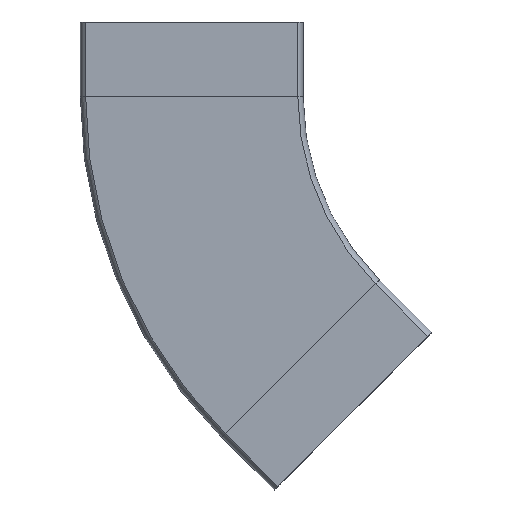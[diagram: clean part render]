
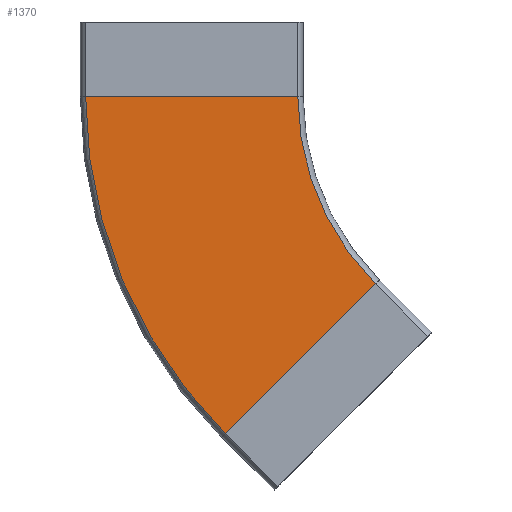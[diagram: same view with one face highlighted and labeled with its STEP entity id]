
A CAD part, front view. The second image highlights one B-rep face of the part: STEP entity #1370.
In plain terms, the highlighted planar face has unit normal (0, -1, 0).
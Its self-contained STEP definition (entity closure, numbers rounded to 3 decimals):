
#217 = EDGE_CURVE ( 'NONE', #2360, #3258, #1037, .T. ) ;
#583 = CARTESIAN_POINT ( 'NONE',  ( 200., -56.5, -40. ) ) ;
#683 = CARTESIAN_POINT ( 'NONE',  ( 98.99, -56.5, -141.01 ) ) ;
#736 = VERTEX_POINT ( 'NONE', #683 ) ;
#755 = DIRECTION ( 'NONE',  ( -1., 0., 0. ) ) ;
#848 = DIRECTION ( 'NONE',  ( 0., 1., 0. ) ) ;
#1037 = LINE ( 'NONE', #1245, #2560 ) ;
#1170 = EDGE_LOOP ( 'NONE', ( #5431, #3373, #2200, #4008 ) ) ;
#1217 = CIRCLE ( 'NONE', #1375, 142.85 ) ;
#1245 = CARTESIAN_POINT ( 'NONE',  ( 0., -56.5, -40. ) ) ;
#1370 = ADVANCED_FACE ( 'NONE', ( #4039 ), #2363, .F. ) ;
#1375 = AXIS2_PLACEMENT_3D ( 'NONE', #5297, #848, #2206 ) ;
#1385 = CARTESIAN_POINT ( 'NONE',  ( -57.15, -56.5, -40. ) ) ;
#1459 = DIRECTION ( 'NONE',  ( 0., 1., 0. ) ) ;
#1567 = CIRCLE ( 'NONE', #3499, 257.15 ) ;
#1641 = CARTESIAN_POINT ( 'NONE',  ( 98.99, -56.5, -141.01 ) ) ;
#1723 = CARTESIAN_POINT ( 'NONE',  ( 18.167, -56.5, -221.833 ) ) ;
#1875 = CARTESIAN_POINT ( 'NONE',  ( 57.15, -56.5, -40. ) ) ;
#1996 = LINE ( 'NONE', #1641, #4521 ) ;
#2200 = ORIENTED_EDGE ( 'NONE', *, *, #2739, .T. ) ;
#2206 = DIRECTION ( 'NONE',  ( 0., 0., 1. ) ) ;
#2208 = DIRECTION ( 'NONE',  ( 0.707, 0., 0.707 ) ) ;
#2360 = VERTEX_POINT ( 'NONE', #1875 ) ;
#2363 = PLANE ( 'NONE',  #4484 ) ;
#2560 = VECTOR ( 'NONE', #755, 1000. ) ;
#2739 = EDGE_CURVE ( 'NONE', #4241, #736, #1996, .T. ) ;
#3184 = EDGE_CURVE ( 'NONE', #736, #2360, #1217, .T. ) ;
#3230 = DIRECTION ( 'NONE',  ( 0., 0., 1. ) ) ;
#3258 = VERTEX_POINT ( 'NONE', #1385 ) ;
#3261 = CARTESIAN_POINT ( 'NONE',  ( 98.99, -56.5, -141.01 ) ) ;
#3373 = ORIENTED_EDGE ( 'NONE', *, *, #3577, .F. ) ;
#3499 = AXIS2_PLACEMENT_3D ( 'NONE', #583, #1459, #3230 ) ;
#3577 = EDGE_CURVE ( 'NONE', #4241, #3258, #1567, .T. ) ;
#4008 = ORIENTED_EDGE ( 'NONE', *, *, #3184, .T. ) ;
#4039 = FACE_OUTER_BOUND ( 'NONE', #1170, .T. ) ;
#4241 = VERTEX_POINT ( 'NONE', #1723 ) ;
#4484 = AXIS2_PLACEMENT_3D ( 'NONE', #3261, #4518, #5400 ) ;
#4518 = DIRECTION ( 'NONE',  ( 0., 1., 0. ) ) ;
#4521 = VECTOR ( 'NONE', #2208, 1000. ) ;
#5297 = CARTESIAN_POINT ( 'NONE',  ( 200., -56.5, -40. ) ) ;
#5400 = DIRECTION ( 'NONE',  ( 0., 0., 1. ) ) ;
#5431 = ORIENTED_EDGE ( 'NONE', *, *, #217, .T. ) ;
